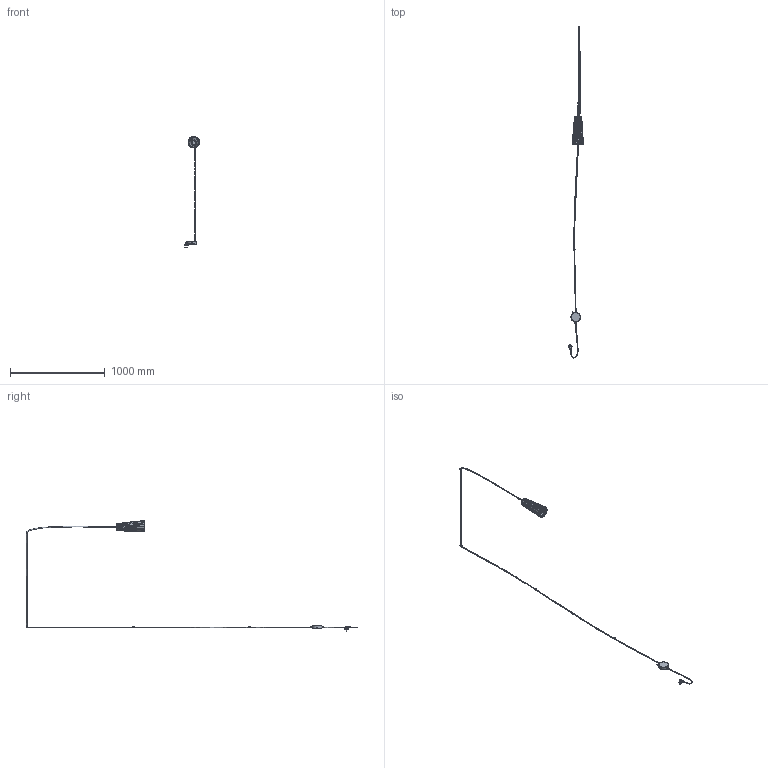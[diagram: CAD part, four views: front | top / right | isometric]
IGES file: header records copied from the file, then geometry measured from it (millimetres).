
Start section: SolidWorks IGES file using analytic representation for surfaces
Global section: file name: F:\GABRYSIA\MODELE 3D\DOVER-9258-9264-WWW\DOVER-9258-9264.IGS; native system: SolidWorks 2017; preprocessor: SolidWorks 2017; author: Togambi; date: 200924.113155; units: millimetre
Bounding box: 158.7 x 3501.03 x 1172.08 mm (x, y, z)
Surface area: 384102.5 mm2 (no closed solid volume)
Topology: 0 solids, 0 shells, 1209 faces, 14891 edges, 14865 vertices
Faces by surface type: bspline 816, revolution 393
